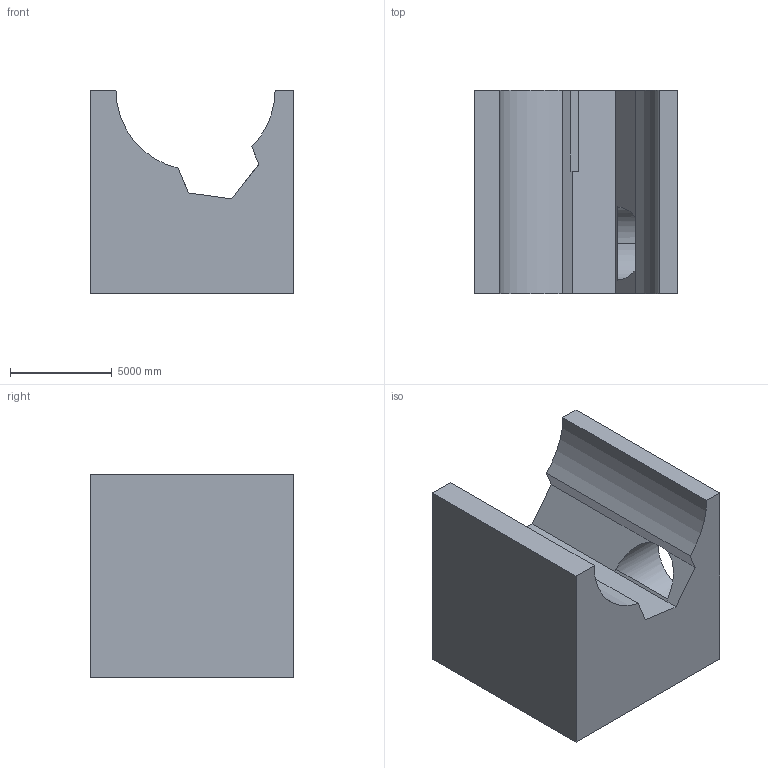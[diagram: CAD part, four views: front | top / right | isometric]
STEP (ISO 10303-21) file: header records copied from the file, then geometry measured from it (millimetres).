
FILE_DESCRIPTION (( 'STEP AP203' ), '1' );
FILE_NAME ('261.STEP', '2022-09-07T12:29:45', ( 'user' ), ( '' ), 'SwSTEP 2.0', 'SolidWorks 2021', '' );
FILE_SCHEMA (( 'CONFIG_CONTROL_DESIGN' ));
Length unit declared in the file: centimetre
Products named in the file (1): 261
Bounding box: 10000 x 10000 x 10000 mm (x, y, z)
Volume: 659749460567.2 mm3; surface area: 665020022.6 mm2
Topology: 1 solids, 1 shells, 21 faces, 60 edges, 40 vertices
Faces by surface type: plane 17, cylinder 4
Entity records: 763 total; most frequent: CARTESIAN_POINT 134, ORIENTED_EDGE 120, DIRECTION 108, EDGE_CURVE 60, VECTOR 48, LINE 48, VERTEX_POINT 40, AXIS2_PLACEMENT_3D 30
